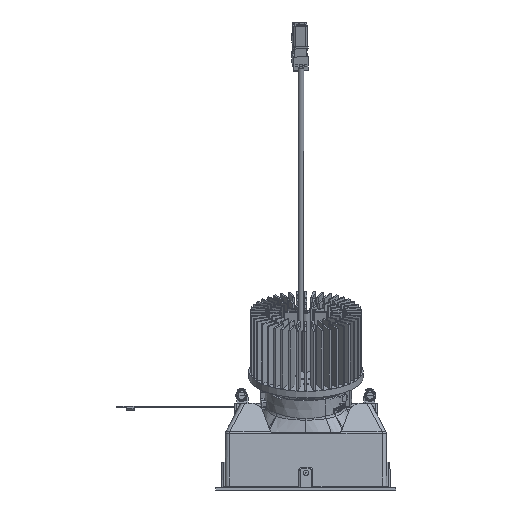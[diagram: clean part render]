
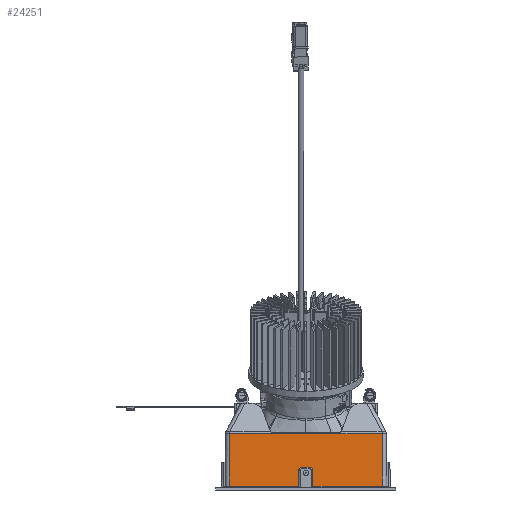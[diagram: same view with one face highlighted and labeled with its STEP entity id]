
A CAD part, front view. The second image highlights one B-rep face of the part: STEP entity #24251.
In plain terms, the highlighted planar face has unit normal (0, -1, 0.009).
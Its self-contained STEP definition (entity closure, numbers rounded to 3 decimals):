
#4283=DIRECTION('',(-0.009,-0.009,-1.));
#4284=VECTOR('',#4283,37.278);
#4285=CARTESIAN_POINT('',(-54.166,-57.166,
38.266));
#4286=LINE('',#4285,#4284);
#4287=DIRECTION('',(-1.,0.,0.));
#4288=VECTOR('',#4287,108.332);
#4289=CARTESIAN_POINT('',(54.166,-57.166,38.266));
#4290=LINE('',#4289,#4288);
#4291=DIRECTION('',(0.,-0.009,-1.));
#4292=VECTOR('',#4291,11.206);
#4293=CARTESIAN_POINT('',(5.,-57.394,12.2));
#4294=LINE('',#4293,#4292);
#4295=CARTESIAN_POINT('',(3.,-57.376,14.2));
#4296=CARTESIAN_POINT('',(3.333,-57.376,14.2));
#4297=CARTESIAN_POINT('',(3.855,-57.377,14.055));
#4298=CARTESIAN_POINT('',(4.444,-57.381,13.644));
#4299=CARTESIAN_POINT('',(4.855,-57.386,13.055));
#4300=CARTESIAN_POINT('',(5.,-57.391,12.533));
#4301=CARTESIAN_POINT('',(5.,-57.394,12.2));
#4303=CARTESIAN_POINT('',(-5.,-57.394,12.2));
#4304=CARTESIAN_POINT('',(-5.,-57.391,12.533));
#4305=CARTESIAN_POINT('',(-4.855,-57.386,
13.055));
#4306=CARTESIAN_POINT('',(-4.444,-57.381,
13.644));
#4307=CARTESIAN_POINT('',(-3.855,-57.377,
14.055));
#4308=CARTESIAN_POINT('',(-3.333,-57.376,14.2));
#4309=CARTESIAN_POINT('',(-3.,-57.376,14.2));
#4311=DIRECTION('',(0.,-0.009,-1.));
#4312=VECTOR('',#4311,11.203);
#4313=CARTESIAN_POINT('',(-5.,-57.394,12.2));
#4314=LINE('',#4313,#4312);
#4325=CARTESIAN_POINT('',(-5.,-57.491,0.997));
#4332=DIRECTION('',(-1.,0.,0.));
#4333=VECTOR('',#4332,49.491);
#4334=CARTESIAN_POINT('',(-5.,-57.491,0.997));
#4335=LINE('',#4334,#4333);
#7178=DIRECTION('',(-1.,0.,0.));
#7179=VECTOR('',#7178,6.);
#7180=CARTESIAN_POINT('',(3.,-57.376,14.2));
#7181=LINE('',#7180,#7179);
#7190=CARTESIAN_POINT('',(5.,-57.491,0.994));
#7198=DIRECTION('',(-1.,0.,0.));
#7199=VECTOR('',#7198,49.491);
#7200=CARTESIAN_POINT('',(54.491,-57.491,
0.991));
#7201=LINE('',#7200,#7199);
#7217=DIRECTION('',(0.009,-0.009,-1.));
#7218=VECTOR('',#7217,37.278);
#7219=CARTESIAN_POINT('',(54.166,-57.166,38.266));
#7220=LINE('',#7219,#7218);
#15477=CARTESIAN_POINT('',(54.166,-57.166,
38.266));
#15478=VERTEX_POINT('',#15477);
#15479=CARTESIAN_POINT('',(54.491,-57.491,
0.991));
#15480=VERTEX_POINT('',#15479);
#16077=VERTEX_POINT('',#4325);
#16080=CARTESIAN_POINT('',(-5.,-57.394,12.2));
#16081=VERTEX_POINT('',#16080);
#16082=CARTESIAN_POINT('',(3.,-57.376,14.2));
#16084=VERTEX_POINT('',#16082);
#16086=CARTESIAN_POINT('',(-3.,-57.376,14.2));
#16087=VERTEX_POINT('',#16086);
#16090=CARTESIAN_POINT('',(-54.491,-57.491,
0.991));
#16091=VERTEX_POINT('',#16090);
#18862=CARTESIAN_POINT('',(-54.166,-57.166,
38.266));
#18863=VERTEX_POINT('',#18862);
#18864=VERTEX_POINT('',#7190);
#18866=CARTESIAN_POINT('',(5.,-57.394,12.2));
#18867=VERTEX_POINT('',#18866);
#24226=CARTESIAN_POINT('',(0.,-57.5,0.));
#24227=DIRECTION('',(0.,-1.,0.009));
#24228=DIRECTION('',(-1.,0.,0.));
#24229=AXIS2_PLACEMENT_3D('',#24226,#24227,#24228);
#24230=PLANE('',#24229);
#24232=ORIENTED_EDGE('',*,*,#24231,.T.);
#24234=ORIENTED_EDGE('',*,*,#24233,.T.);
#24235=ORIENTED_EDGE('',*,*,#24214,.F.);
#24236=ORIENTED_EDGE('',*,*,#24084,.F.);
#24238=ORIENTED_EDGE('',*,*,#24237,.T.);
#24240=ORIENTED_EDGE('',*,*,#24239,.T.);
#24242=ORIENTED_EDGE('',*,*,#24241,.F.);
#24244=ORIENTED_EDGE('',*,*,#24243,.F.);
#24246=ORIENTED_EDGE('',*,*,#24245,.T.);
#24248=ORIENTED_EDGE('',*,*,#24247,.F.);
#24249=EDGE_LOOP('',(#24232,#24234,#24235,#24236,#24238,#24240,#24242,#24244,
#24246,#24248));
#24250=FACE_OUTER_BOUND('',#24249,.F.);
#24251=ADVANCED_FACE('',(#24250),#24230,.T.);
#4302=B_SPLINE_CURVE_WITH_KNOTS('',3,(#4295,#4296,#4297,#4298,#4299,#4300,
#4301),.UNSPECIFIED.,.F.,.F.,(4,1,1,1,4),(0.,0.25,0.5,0.75,1.),
.UNSPECIFIED.);
#4310=B_SPLINE_CURVE_WITH_KNOTS('',3,(#4303,#4304,#4305,#4306,#4307,#4308,
#4309),.UNSPECIFIED.,.F.,.F.,(4,1,1,1,4),(0.,0.25,0.5,0.75,1.),
.UNSPECIFIED.);
#24084=EDGE_CURVE('',#15478,#18863,#4290,.T.);
#24214=EDGE_CURVE('',#18863,#16091,#4286,.T.);
#24231=EDGE_CURVE('',#16081,#16077,#4314,.T.);
#24233=EDGE_CURVE('',#16077,#16091,#4335,.T.);
#24237=EDGE_CURVE('',#15478,#15480,#7220,.T.);
#24239=EDGE_CURVE('',#15480,#18864,#7201,.T.);
#24241=EDGE_CURVE('',#18867,#18864,#4294,.T.);
#24243=EDGE_CURVE('',#16084,#18867,#4302,.T.);
#24245=EDGE_CURVE('',#16084,#16087,#7181,.T.);
#24247=EDGE_CURVE('',#16081,#16087,#4310,.T.);
